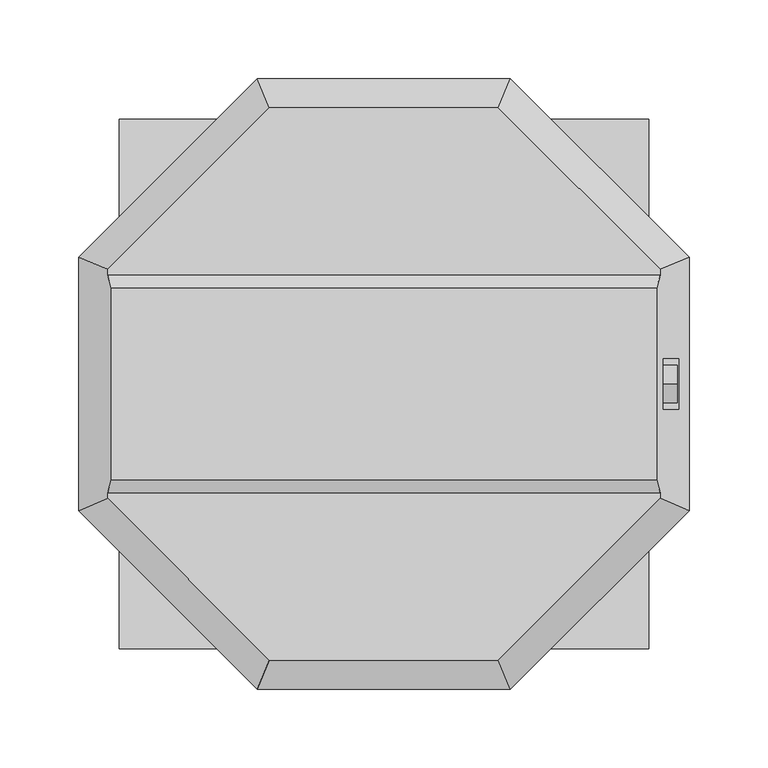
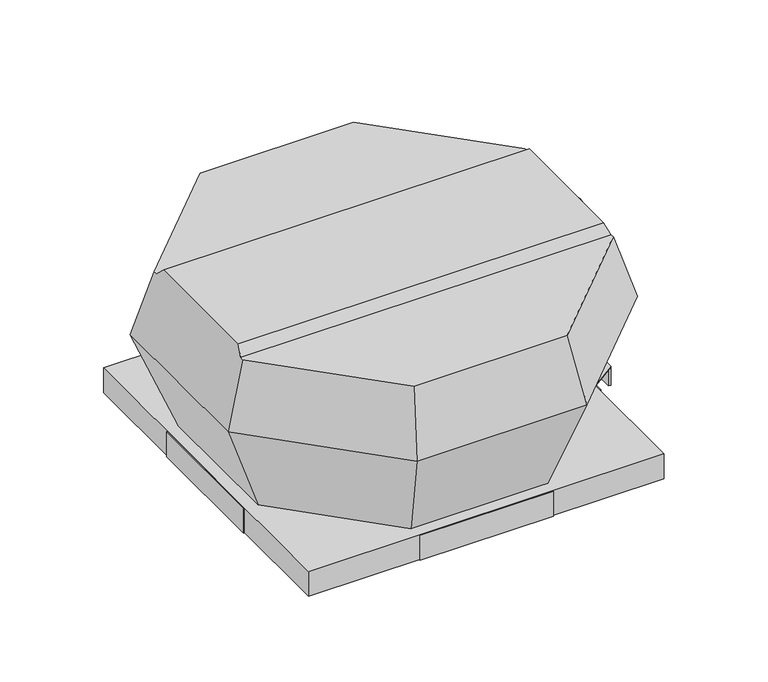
"""IFC4 building model written with IfcOpenShell, lengths in millimetres: unitary equipment geometry, VE-Wentylator-ParaForma-Harmann-VIVER_PS-Wywiewny : 2-220/800S."""

from ifc_helpers import new_model, si_unit, point, frame, frame_2d, origin, place, context, project, spatial, circle_curve, trimmed, segment, composite_curve, outline, extrude, faceted_brep, source, transform, mapped, element, save


def unitary_equipment_81159ae2(model_context):
    return source(origin(), model_context, "Body", "SolidModel", [
        faceted_brep([(173.5597397, -61.0, 166.2), (173.5597397, 61.0, 166.2), (-173.5597397, 61.0, 166.2), (-173.5597397, -61.0, 166.2), (175.9961687, 69.1, 158.1), (-175.9961687, 69.1, 158.1), (175.9961687, -69.1, 158.1), (-175.9961687, -69.1, 158.1), (72.9, -175.9961687, 158.1), (175.9961687, -72.9, 158.1), (-175.9961687, -72.9, 158.1), (-72.9, -175.9961687, 158.1), (175.9961687, 72.9, 158.1), (72.9, 175.9961687, 158.1), (-72.9, 175.9961687, 158.1), (-175.9961687, 72.9, 158.1), (80.55, -194.4649024, 96.7), (194.4649024, -80.55, 96.7), (194.4649024, 80.55, 96.7), (187.7872821, -16.0, 118.9), (177.8310103, -16.0, 152.0), (177.8310103, 16.0, 152.0), (187.7872821, 16.0, 118.9), (80.55, 194.4649024, 96.7), (-80.55, 194.4649024, 96.7), (-194.4649024, 80.55, 96.7), (-194.4649024, -80.55, 96.7), (-80.55, -194.4649024, 96.7), (176.8, -16.0, 118.9), (176.8, 16.0, 118.9), (176.8, 16.0, 152.0), (176.8, -16.0, 152.0), (65.1, -157.1653029, 1.0), (-65.1, -157.1653029, 1.0), (-157.1653029, -65.1, 1.0), (-157.1653029, 65.1, 1.0), (-65.1, 157.1653029, 1.0), (65.1, 157.1653029, 1.0), (157.1653029, 65.1, 1.0), (157.1653029, -65.1, 1.0)], [[[0, 1, 2, 3]], [[1, 4, 5, 2]], [[6, 0, 3, 7]], [[8, 9, 6, 7, 10, 11]], [[12, 13, 14, 15, 5, 4]], [[9, 8, 16, 17]], [[9, 17, 18, 12, 4, 1, 0, 6], [19, 20, 21, 22]], [[13, 12, 18, 23]], [[14, 13, 23, 24]], [[15, 14, 24, 25]], [[15, 25, 26, 10, 7, 3, 2, 5]], [[11, 10, 26, 27]], [[8, 11, 27, 16]], [[28, 29, 30, 31]], [[28, 31, 20, 19]], [[31, 30, 21, 20]], [[30, 29, 22, 21]], [[29, 28, 19, 22]], [[32, 33, 34, 35, 36, 37, 38, 39]], [[32, 39, 17, 16]], [[39, 38, 18, 17]], [[38, 37, 23, 18]], [[37, 36, 24, 23]], [[36, 35, 25, 24]], [[35, 34, 26, 25]], [[34, 33, 27, 26]], [[33, 32, 16, 27]]]),
        faceted_brep([(167.6, 167.6, -24.0), (167.6, 167.6, 0.0), (-167.6, 167.6, 0.0), (-167.6, 167.6, -24.0), (168.6, 168.6, 1.0), (168.6, 168.6, -24.0), (-168.6, 168.6, -24.0), (-168.6, 168.6, 1.0), (-167.6, -167.6, 0.0), (-167.6, -167.6, -24.0), (-168.6, -168.6, -24.0), (-168.6, -168.6, 1.0), (167.6, -167.6, 0.0), (167.6, -167.6, -24.0), (168.6, -168.6, -24.0), (168.6, -168.6, 1.0)], [[[0, 1, 2, 3]], [[4, 5, 6, 7]], [[3, 2, 8, 9]], [[7, 6, 10, 11]], [[9, 8, 12, 13]], [[11, 10, 14, 15]], [[13, 12, 1, 0]], [[5, 14, 10, 6], [3, 9, 13, 0]], [[15, 14, 5, 4]], [[7, 11, 15, 4]], [[1, 12, 8, 2]]]),
        extrude(outline(composite_curve([segment(trimmed(circle_curve(frame_2d((0.0, 136.4)), 12.0), [point((0.0, 148.4))], [point((0.0, 124.4))], False, "CARTESIAN"), True, "CONTINUOUS"), segment(trimmed(circle_curve(frame_2d((0.0, 136.4)), 12.0), [point((0.0, 124.4))], [point((0.0, 148.4))], False, "CARTESIAN"), True, "CONTINUOUS")], self_intersect=False)), frame((176.8, 0.0, 0.0), z_axis=(1.0, 0.0, 0.0), x_axis=(0.0, 1.0, 0.0)), (0.0, 0.0, 1.0), 10.0),
        faceted_brep([(-168.6, -63.3, -24.0), (-169.6, -63.3, -24.0), (-169.6, 63.3, -24.0), (-168.6, 63.3, -24.0), (-168.6, -63.3, 1.0), (-168.6, 63.3, 1.0), (-169.6, 63.3, 1.0), (-169.6, -63.3, 1.0)], [[[0, 1, 2, 3]], [[4, 5, 6, 7]], [[1, 0, 4, 7]], [[2, 1, 7, 6]], [[3, 2, 6, 5]], [[0, 3, 5, 4]]]),
        faceted_brep([(169.6, -63.3, -24.0), (168.6, -63.3, -24.0), (168.6, 63.3, -24.0), (169.6, 63.3, -24.0), (169.6, 63.3, 1.0), (168.6, 63.3, 1.0), (168.6, -63.3, 1.0), (169.6, -63.3, 1.0), (169.6, -54.8, 1.0), (193.6, -38.0, 1.0), (193.6, 38.0, 1.0), (169.6, 54.8, 1.0), (169.6, 54.8, 0.0), (169.6, -54.8, 0.0), (193.6, 38.0, 0.0), (191.5, 38.0, 0.0), (191.5, -38.0, 0.0), (193.6, -38.0, 0.0), (193.6, -38.0, -18.0), (193.6, 38.0, -18.0), (191.5, -38.0, -18.0), (191.5, 38.0, -18.0)], [[[0, 1, 2, 3]], [[4, 5, 6, 7, 8, 9, 10, 11]], [[1, 0, 7, 6]], [[2, 1, 6, 5]], [[3, 2, 5, 4]], [[0, 3, 4, 11, 12, 13, 8, 7]], [[12, 14, 15, 16, 17, 13]], [[14, 12, 11, 10]], [[10, 9, 17, 18, 19, 14]], [[13, 17, 9, 8]], [[20, 16, 15, 21]], [[16, 20, 18, 17]], [[21, 15, 14, 19]], [[20, 21, 19, 18]]]),
        faceted_brep([(63.3, 168.6, -24.0), (-63.3, 168.6, -24.0), (-63.3, 169.6, -24.0), (63.3, 169.6, -24.0), (63.3, 168.6, 1.0), (63.3, 169.6, 1.0), (-63.3, 169.6, 1.0), (-63.3, 168.6, 1.0)], [[[0, 1, 2, 3]], [[4, 5, 6, 7]], [[1, 0, 4, 7]], [[2, 1, 7, 6]], [[3, 2, 6, 5]], [[0, 3, 5, 4]]]),
        faceted_brep([(63.3, -169.6, -24.0), (-63.3, -169.6, -24.0), (-63.3, -168.6, -24.0), (63.3, -168.6, -24.0), (63.3, -169.6, 1.0), (63.3, -168.6, 1.0), (-63.3, -168.6, 1.0), (-63.3, -169.6, 1.0)], [[[0, 1, 2, 3]], [[4, 5, 6, 7]], [[1, 0, 4, 7]], [[2, 1, 7, 6]], [[3, 2, 6, 5]], [[0, 3, 5, 4]]]),
    ])


if __name__ == "__main__":
    model = new_model("IFC4")
    model_context = context("Model", 3, world=origin())
    ifc_project = project(units=[si_unit("LENGTHUNIT", "METRE", prefix="MILLI")], contexts=[model_context])
    site = spatial("IfcSite", under=ifc_project)
    building = spatial("IfcBuilding", under=site)
    placement = place(None, origin())
    unitary_equipment_shape = unitary_equipment_81159ae2(model_context)
    element("IfcUnitaryEquipment", 1, ObjectType="VE-Wentylator-ParaForma-Harmann-VIVER_PS-Wywiewny : 2-220/800S", at=placement, inside=building, context=model_context, shape_type="MappedRepresentation", body=[
        mapped(unitary_equipment_shape, transform((0.0, 0.0, 0.0), x_axis=(1.0, 0.0, 0.0), y_axis=(0.0, 1.0, 0.0), z_axis=(0.0, 0.0, 1.0))),
    ])
    save(model, "model.ifc")
